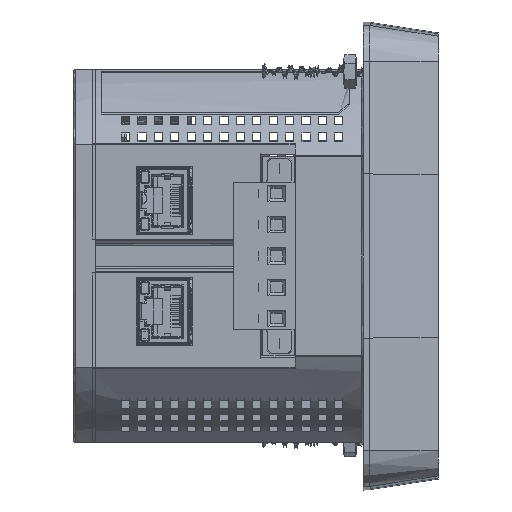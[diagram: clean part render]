
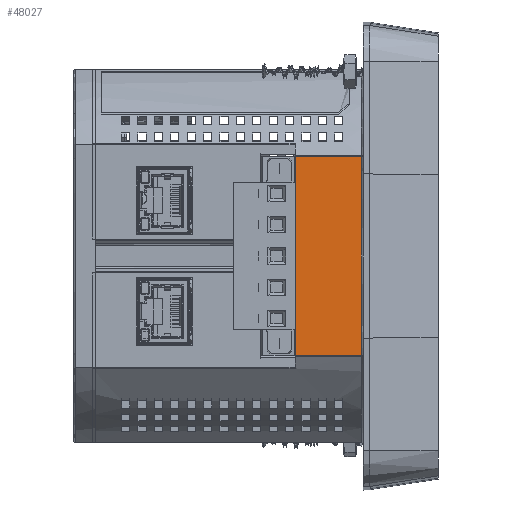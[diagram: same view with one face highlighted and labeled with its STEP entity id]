
A CAD part, left-side view. The second image highlights one B-rep face of the part: STEP entity #48027.
In plain terms, the highlighted planar face has unit normal (-1, 0, 0) as drawn and (0, 0, 1) by its records, which use the part's own axes.
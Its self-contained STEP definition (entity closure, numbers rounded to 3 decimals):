
#19712=B_SPLINE_CURVE_WITH_KNOTS('',1,(#293052,#293053),.UNSPECIFIED.,.F.,
 .F.,(2,2),(-16.2,0.),.UNSPECIFIED.);
#19713=B_SPLINE_CURVE_WITH_KNOTS('',1,(#293054,#293055),.UNSPECIFIED.,.F.,
 .F.,(2,2),(-48.508,0.),.UNSPECIFIED.);
#19714=B_SPLINE_CURVE_WITH_KNOTS('',1,(#293056,#293057),.UNSPECIFIED.,.F.,
 .F.,(2,2),(-16.2,0.),.UNSPECIFIED.);
#19715=B_SPLINE_CURVE_WITH_KNOTS('',1,(#293058,#293059),.UNSPECIFIED.,.F.,
 .F.,(2,2),(0.,48.508),.UNSPECIFIED.);
#48027=ADVANCED_FACE('',(#53327),#160533,.T.);
#53327=FACE_OUTER_BOUND('',#59125,.T.);
#59125=EDGE_LOOP('',(#78721,#78722,#78723,#78724));
#78721=ORIENTED_EDGE('',*,*,#108626,.F.);
#78722=ORIENTED_EDGE('',*,*,#108627,.F.);
#78723=ORIENTED_EDGE('',*,*,#108628,.F.);
#78724=ORIENTED_EDGE('',*,*,#108625,.F.);
#108625=EDGE_CURVE('',#145886,#145887,#19712,.T.);
#108626=EDGE_CURVE('',#145888,#145886,#19713,.T.);
#108627=EDGE_CURVE('',#145889,#145888,#19714,.T.);
#108628=EDGE_CURVE('',#145887,#145889,#19715,.T.);
#145886=VERTEX_POINT('',#293048);
#145887=VERTEX_POINT('',#293049);
#145888=VERTEX_POINT('',#293050);
#145889=VERTEX_POINT('',#293051);
#160533=PLANE('',#164790);
#164790=AXIS2_PLACEMENT_3D('',#293047,#168224,$);
#168224=DIRECTION('',(0.,0.,1.));
#293047=CARTESIAN_POINT('',(29.105,-18.32,42.5));
#293048=CARTESIAN_POINT('',(24.254,-0.5,42.5));
#293049=CARTESIAN_POINT('',(24.254,-16.7,42.5));
#293050=CARTESIAN_POINT('',(-24.254,-0.5,42.5));
#293051=CARTESIAN_POINT('',(-24.254,-16.7,42.5));
#293052=CARTESIAN_POINT('',(24.254,-0.5,42.5));
#293053=CARTESIAN_POINT('',(24.254,-16.7,42.5));
#293054=CARTESIAN_POINT('',(-24.254,-0.5,42.5));
#293055=CARTESIAN_POINT('',(24.254,-0.5,42.5));
#293056=CARTESIAN_POINT('',(-24.254,-16.7,42.5));
#293057=CARTESIAN_POINT('',(-24.254,-0.5,42.5));
#293058=CARTESIAN_POINT('',(24.254,-16.7,42.5));
#293059=CARTESIAN_POINT('',(-24.254,-16.7,42.5));
